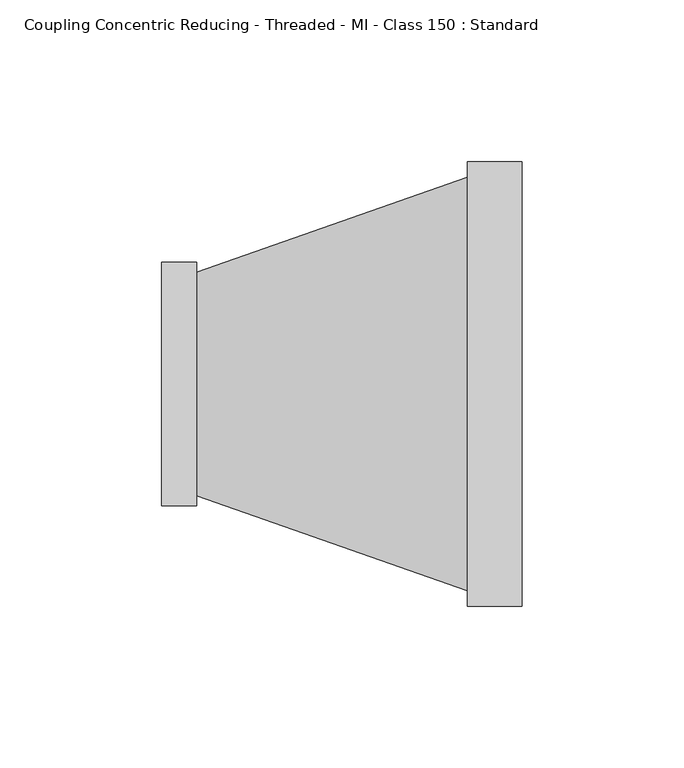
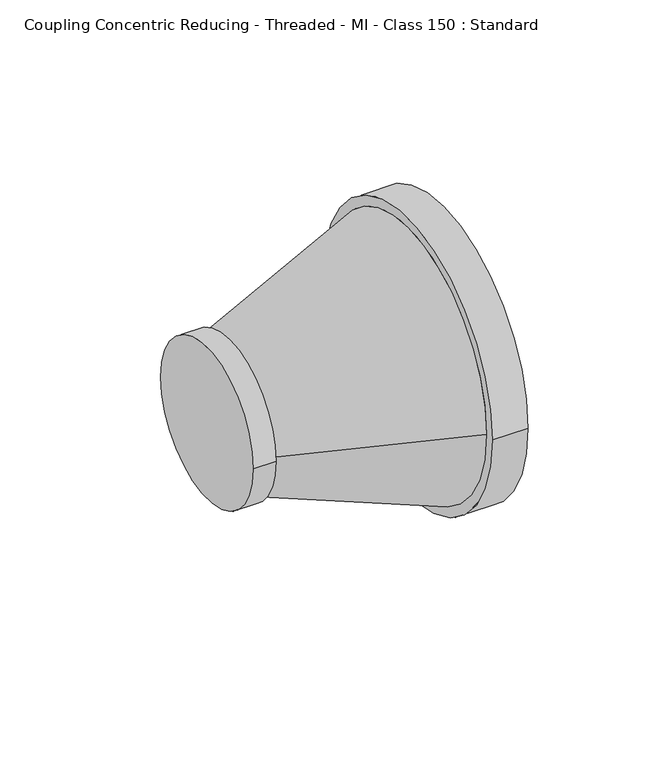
"""IFC4 building model written with IfcOpenShell, lengths in millimetres: pipe fitting geometry, Coupling Concentric Reducing - Threaded - MI - Class 150 : Standard."""

from ifc_helpers import new_model, si_unit, frame, origin, place, context, project, spatial, polyline, circle_curve, source, transform, mapped, element, save
from ifc_brep_helpers import plane_surface, cylinder_surface, revolved_surface, advanced_brep


def coupling_concentric_reducing_threaded_mi_class_150_standard_e5de6db7(model_context):
    return source(origin(), model_context, "Body", "AdvancedBrep", [
        advanced_brep(
        [(10.7, 34.54, 0.0), (94.5, 63.93, 0.0), (94.5, -63.93, 0.0), (10.7, -34.54, 0.0), (111.3, -68.6, 0.0), (111.3, 68.6, 0.0), (94.5, -68.6, 0.0), (94.5, 68.6, 0.0), (10.7, -37.65, 0.0), (10.7, 37.65, 0.0), (0.0, -37.65, 0.0), (0.0, 37.65, 0.0)],
        [
            (0, 1),
            (1, 2, circle_curve(frame((94.5, 0.0, 0.0), z_axis=(-1.0, 0.0, 0.0), x_axis=(0.0, -1.0, 0.0)), 63.93)),
            (2, 3),
            (3, 0, circle_curve(frame((10.7, 0.0, 0.0), z_axis=(1.0, 0.0, 0.0), x_axis=(0.0, -1.0, 0.0)), 34.54)),
            (0, 3, circle_curve(frame((10.7, 0.0, 0.0), z_axis=(1.0, 0.0, 0.0), x_axis=(0.0, 1.0, 0.0)), 34.54)),
            (2, 1, circle_curve(frame((94.5, 0.0, 0.0), z_axis=(-1.0, 0.0, 0.0), x_axis=(0.0, 1.0, 0.0)), 63.93)),
            (4, 5, circle_curve(frame((111.3, 0.0, 0.0), z_axis=(1.0, 0.0, 0.0), x_axis=(0.0, 1.0, 0.0)), 68.6)),
            (5, 4, circle_curve(frame((111.3, 0.0, 0.0), z_axis=(1.0, 0.0, 0.0), x_axis=(0.0, 1.0, 0.0)), 68.6)),
            (6, 7, circle_curve(frame((94.5, 0.0, 0.0), z_axis=(-1.0, 0.0, 0.0), x_axis=(0.0, 1.0, 0.0)), 68.6)),
            (7, 6, circle_curve(frame((94.5, 0.0, 0.0), z_axis=(-1.0, 0.0, 0.0), x_axis=(0.0, 1.0, 0.0)), 68.6)),
            (4, 6),
            (7, 5),
            (8, 9, circle_curve(frame((10.7, 0.0, 0.0), z_axis=(1.0, 0.0, 0.0), x_axis=(0.0, 1.0, 0.0)), 37.65)),
            (9, 8, circle_curve(frame((10.7, 0.0, 0.0), z_axis=(1.0, 0.0, 0.0), x_axis=(0.0, 1.0, 0.0)), 37.65)),
            (10, 11, circle_curve(frame((0.0, 0.0, 0.0), z_axis=(-1.0, 0.0, 0.0), x_axis=(0.0, 1.0, 0.0)), 37.65)),
            (11, 10, circle_curve(frame((0.0, 0.0, 0.0), z_axis=(-1.0, 0.0, 0.0), x_axis=(0.0, 1.0, 0.0)), 37.65)),
            (8, 10),
            (11, 9),
        ],
        [
            revolved_surface(polyline([(10.699999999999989, 34.53999999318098, 0.0), (94.5, 63.93, 0.0)]), (-87.7842463, 0.0, 0.0), (1.0, 0.0, 0.0)),
            plane_surface(frame((111.3, 68.6, 0.0), z_axis=(1.0, 0.0, 0.0), x_axis=(0.0, 0.0, 1.0))),
            plane_surface(frame((94.5, 68.6, 0.0), z_axis=(-1.0, 0.0, 0.0), x_axis=(0.0, 0.0, -1.0))),
            cylinder_surface(frame((94.5, 0.0, 0.0), z_axis=(1.0, 0.0, 0.0), x_axis=(0.0, 1.0, 0.0)), 68.6),
            plane_surface(frame((10.7, 37.65, 0.0), z_axis=(1.0, 0.0, 0.0), x_axis=(0.0, 0.0, 1.0))),
            plane_surface(frame((0.0, 37.65, 0.0), z_axis=(-1.0, 0.0, 0.0), x_axis=(0.0, 0.0, -1.0))),
            cylinder_surface(frame((0.0, 0.0, 0.0), z_axis=(1.0, 0.0, 0.0), x_axis=(0.0, 1.0, 0.0)), 37.65),
        ],
        [
            (0, [[1, 2, 3, 4]]),
            (0, [[-1, 5, -3, 6]]),
            (1, [[7, 8]]),
            (2, [[9, 10], [-2, -6]]),
            (3, [[-7, 11, -10, 12]]),
            (3, [[-8, -12, -9, -11]]),
            (4, [[13, 14], [-4, -5]]),
            (5, [[15, 16]]),
            (6, [[-13, 17, -16, 18]]),
            (6, [[-14, -18, -15, -17]]),
        ],
    ),
    ])


if __name__ == "__main__":
    model = new_model("IFC4")
    model_context = context("Model", 3, world=origin())
    ifc_project = project(units=[si_unit("LENGTHUNIT", "METRE", prefix="MILLI")], contexts=[model_context])
    site = spatial("IfcSite", under=ifc_project)
    building = spatial("IfcBuilding", under=site)
    placement = place(None, origin())
    coupling_concentric_reducing_threaded_mi_class_150_standard_shape = coupling_concentric_reducing_threaded_mi_class_150_standard_e5de6db7(model_context)
    element("IfcPipeFitting", 1, ObjectType="Coupling Concentric Reducing - Threaded - MI - Class 150 : Standard", at=placement, inside=building, context=model_context, shape_type="MappedRepresentation", body=[
        mapped(coupling_concentric_reducing_threaded_mi_class_150_standard_shape, transform((0.0, 0.0, 0.0), x_axis=(1.0, 0.0, 0.0), y_axis=(0.0, 1.0, 0.0), z_axis=(0.0, 0.0, 1.0))),
    ])
    save(model, "model.ifc")
